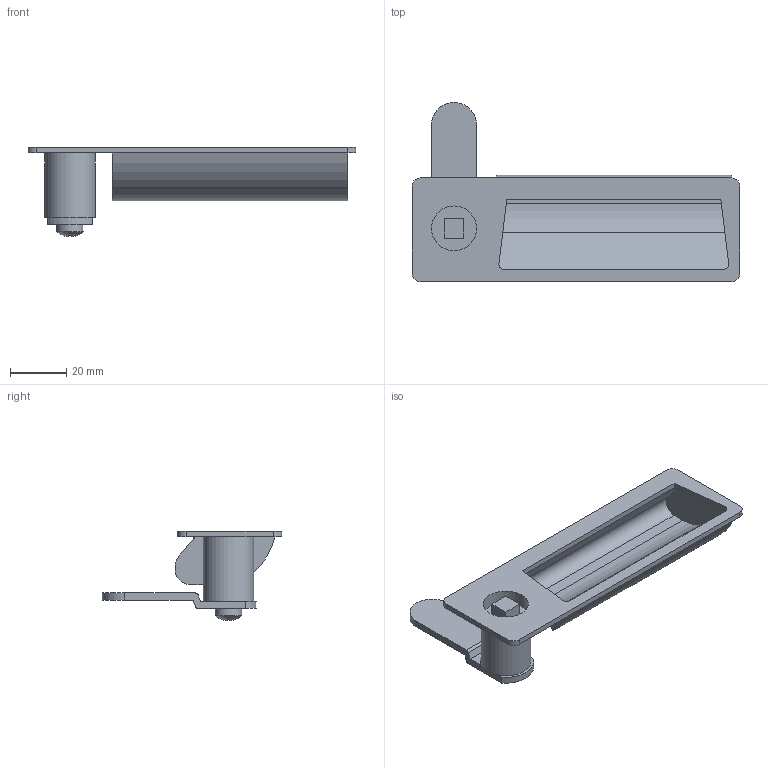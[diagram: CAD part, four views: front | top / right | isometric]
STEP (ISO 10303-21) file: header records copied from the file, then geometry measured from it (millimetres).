
FILE_DESCRIPTION( ( 'STEP AP203' ), '1' );
FILE_NAME( 'C:/Temp/Ganter_Step_05_03_2020/data/3_3/gn731_5/gn731_5_1/Latche with gripping tray GN 731.5-VK-3-45-1-SG (0-20).stp', '2020-03-12T11:49:21', ( 'License CC BY-ND 4.0' ), ( 'CADENAS' ), ' ', 'PARTsolutions', ' ' );
FILE_SCHEMA( ( 'CONFIG_CONTROL_DESIGN' ) );
Length unit declared in the file: millimetre
Products named in the file (3): Latche with gripping tray GN 731.5-VK-3-45-1-SG (0-20); _Latche with gripping tray GN 731.5-VK-3-45-1-SG (0)_1; _Latche with gripping tray GN 731.5-VK-3-45-1-SG (0-20)_2
Assembly tree (2 placements, depth 2):
  Latche with gripping tray GN 731.5-VK-3-45-1-SG (0-20)
    _Latche with gripping tray GN 731.5-VK-3-45-1-SG (0)_1
    _Latche with gripping tray GN 731.5-VK-3-45-1-SG (0-20)_2
Bounding box: 117 x 64 x 31.88 mm (x, y, z)
Volume: 24412.4 mm3; surface area: 20522.3 mm2
Topology: 2 solids, 2 shells, 91 faces, 233 edges, 152 vertices
Faces by surface type: plane 68, cylinder 22, sphere 1
Full cylindrical faces by diameter (mm): 9.5 x1, 16 x1, 18 x1
Entity records: 2817 total; most frequent: DIRECTION 479, CARTESIAN_POINT 469, ORIENTED_EDGE 452, EDGE_CURVE 226, LINE 161, VECTOR 161, AXIS2_PLACEMENT_3D 159, VERTEX_POINT 149
